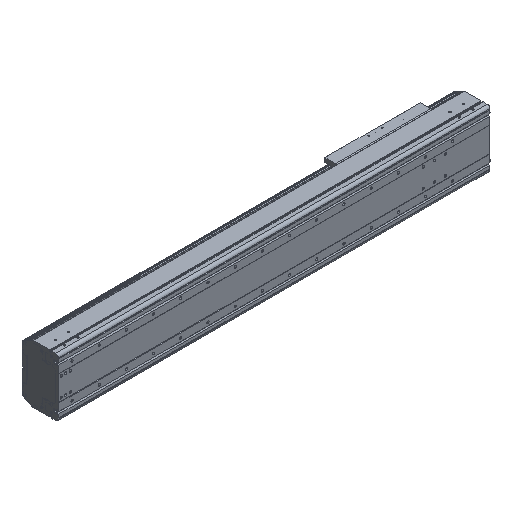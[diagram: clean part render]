
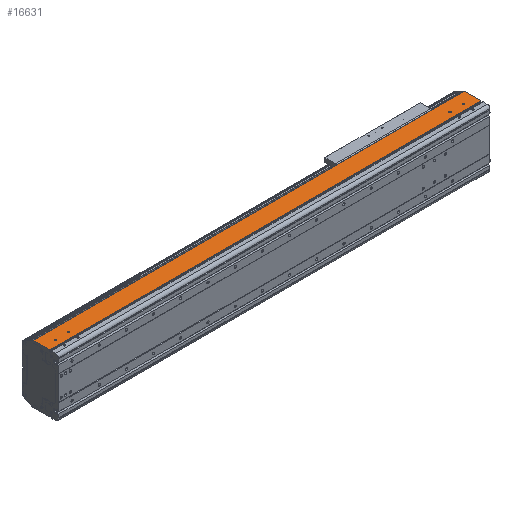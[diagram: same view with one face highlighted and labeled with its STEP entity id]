
A CAD part, isometric view. The second image highlights one B-rep face of the part: STEP entity #16631.
In plain terms, the highlighted planar face has unit normal (0, 0, 1).
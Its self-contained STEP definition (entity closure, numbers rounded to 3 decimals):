
#1203=DIRECTION('',(1.,0.,0.));
#1204=VECTOR('',#1203,2.);
#1205=CARTESIAN_POINT('',(0.,34.65,107.));
#1206=LINE('',#1205,#1204);
#1211=CARTESIAN_POINT('',(-42.,54.,107.));
#1212=DIRECTION('',(0.,0.,-1.));
#1213=DIRECTION('',(1.,0.,0.));
#1214=AXIS2_PLACEMENT_3D('',#1211,#1212,#1213);
#1216=CARTESIAN_POINT('',(-42.,54.,107.));
#1217=DIRECTION('',(0.,0.,-1.));
#1218=DIRECTION('',(-1.,0.,0.));
#1219=AXIS2_PLACEMENT_3D('',#1216,#1217,#1218);
#1221=CARTESIAN_POINT('',(-92.,54.,107.));
#1222=DIRECTION('',(0.,0.,-1.));
#1223=DIRECTION('',(1.,0.,0.));
#1224=AXIS2_PLACEMENT_3D('',#1221,#1222,#1223);
#1226=CARTESIAN_POINT('',(-92.,54.,107.));
#1227=DIRECTION('',(0.,0.,-1.));
#1228=DIRECTION('',(-1.,0.,0.));
#1229=AXIS2_PLACEMENT_3D('',#1226,#1227,#1228);
#1231=CARTESIAN_POINT('',(-1544.,54.,107.));
#1232=DIRECTION('',(0.,0.,-1.));
#1233=DIRECTION('',(1.,0.,0.));
#1234=AXIS2_PLACEMENT_3D('',#1231,#1232,#1233);
#1236=CARTESIAN_POINT('',(-1544.,54.,107.));
#1237=DIRECTION('',(0.,0.,-1.));
#1238=DIRECTION('',(-1.,0.,0.));
#1239=AXIS2_PLACEMENT_3D('',#1236,#1237,#1238);
#1241=CARTESIAN_POINT('',(-1494.,54.,107.));
#1242=DIRECTION('',(0.,0.,-1.));
#1243=DIRECTION('',(1.,0.,0.));
#1244=AXIS2_PLACEMENT_3D('',#1241,#1242,#1243);
#1246=CARTESIAN_POINT('',(-1494.,54.,107.));
#1247=DIRECTION('',(0.,0.,-1.));
#1248=DIRECTION('',(-1.,0.,0.));
#1249=AXIS2_PLACEMENT_3D('',#1246,#1247,#1248);
#1251=DIRECTION('',(0.,-1.,0.));
#1252=VECTOR('',#1251,2.55);
#1253=CARTESIAN_POINT('',(-1584.,34.65,107.));
#1254=LINE('',#1253,#1252);
#1255=DIRECTION('',(0.,-1.,0.));
#1256=VECTOR('',#1255,58.85);
#1257=CARTESIAN_POINT('',(-1586.,93.5,107.));
#1258=LINE('',#1257,#1256);
#1259=DIRECTION('',(0.,1.,0.));
#1260=VECTOR('',#1259,58.85);
#1261=CARTESIAN_POINT('',(2.,34.65,107.));
#1262=LINE('',#1261,#1260);
#1263=DIRECTION('',(0.,1.,0.));
#1264=VECTOR('',#1263,2.55);
#1265=CARTESIAN_POINT('',(0.,32.1,107.));
#1266=LINE('',#1265,#1264);
#1375=DIRECTION('',(1.,0.,0.));
#1376=VECTOR('',#1375,2.);
#1377=CARTESIAN_POINT('',(-1586.,34.65,107.));
#1378=LINE('',#1377,#1376);
#1387=DIRECTION('',(-1.,0.,0.));
#1388=VECTOR('',#1387,1588.);
#1389=CARTESIAN_POINT('',(2.,93.5,107.));
#1390=LINE('',#1389,#1388);
#10993=DIRECTION('',(1.,0.,0.));
#10994=VECTOR('',#10993,1584.);
#10995=CARTESIAN_POINT('',(-1584.,32.1,107.));
#10996=LINE('',#10995,#10994);
#12079=CARTESIAN_POINT('',(-1586.,34.65,107.));
#12080=VERTEX_POINT('',#12079);
#12081=CARTESIAN_POINT('',(-1586.,93.5,107.));
#12082=VERTEX_POINT('',#12081);
#12303=CARTESIAN_POINT('',(-1584.,32.1,107.));
#12304=VERTEX_POINT('',#12303);
#12375=CARTESIAN_POINT('',(0.,32.1,107.));
#12376=VERTEX_POINT('',#12375);
#12817=CARTESIAN_POINT('',(-39.5,54.,107.));
#12818=CARTESIAN_POINT('',(-44.5,54.,107.));
#12819=VERTEX_POINT('',#12817);
#12820=VERTEX_POINT('',#12818);
#12821=CARTESIAN_POINT('',(-89.5,54.,107.));
#12822=CARTESIAN_POINT('',(-94.5,54.,107.));
#12823=VERTEX_POINT('',#12821);
#12824=VERTEX_POINT('',#12822);
#12825=CARTESIAN_POINT('',(-1541.5,54.,107.));
#12826=CARTESIAN_POINT('',(-1546.5,54.,107.));
#12827=VERTEX_POINT('',#12825);
#12828=VERTEX_POINT('',#12826);
#12829=CARTESIAN_POINT('',(-1491.5,54.,107.));
#12830=CARTESIAN_POINT('',(-1496.5,54.,107.));
#12831=VERTEX_POINT('',#12829);
#12832=VERTEX_POINT('',#12830);
#13978=CARTESIAN_POINT('',(2.,34.65,107.));
#13979=VERTEX_POINT('',#13978);
#13980=CARTESIAN_POINT('',(2.,93.5,107.));
#13981=VERTEX_POINT('',#13980);
#14200=CARTESIAN_POINT('',(0.,34.65,107.));
#14201=VERTEX_POINT('',#14200);
#14512=CARTESIAN_POINT('',(-1584.,34.65,107.));
#14513=VERTEX_POINT('',#14512);
#16589=CARTESIAN_POINT('',(-792.,62.8,107.));
#16590=DIRECTION('',(0.,0.,1.));
#16591=DIRECTION('',(0.,-1.,0.));
#16592=AXIS2_PLACEMENT_3D('',#16589,#16590,#16591);
#16593=PLANE('',#16592);
#16594=ORIENTED_EDGE('',*,*,#15264,.F.);
#16596=ORIENTED_EDGE('',*,*,#16595,.F.);
#16597=ORIENTED_EDGE('',*,*,#15636,.F.);
#16599=ORIENTED_EDGE('',*,*,#16598,.F.);
#16600=ORIENTED_EDGE('',*,*,#16385,.F.);
#16601=ORIENTED_EDGE('',*,*,#16582,.F.);
#16602=ORIENTED_EDGE('',*,*,#15760,.F.);
#16604=ORIENTED_EDGE('',*,*,#16603,.F.);
#16605=EDGE_LOOP('',(#16594,#16596,#16597,#16599,#16600,#16601,#16602,#16604));
#16606=FACE_OUTER_BOUND('',#16605,.F.);
#16608=ORIENTED_EDGE('',*,*,#16607,.F.);
#16610=ORIENTED_EDGE('',*,*,#16609,.F.);
#16611=EDGE_LOOP('',(#16608,#16610));
#16612=FACE_BOUND('',#16611,.F.);
#16614=ORIENTED_EDGE('',*,*,#16613,.F.);
#16616=ORIENTED_EDGE('',*,*,#16615,.F.);
#16617=EDGE_LOOP('',(#16614,#16616));
#16618=FACE_BOUND('',#16617,.F.);
#16620=ORIENTED_EDGE('',*,*,#16619,.F.);
#16622=ORIENTED_EDGE('',*,*,#16621,.F.);
#16623=EDGE_LOOP('',(#16620,#16622));
#16624=FACE_BOUND('',#16623,.F.);
#16626=ORIENTED_EDGE('',*,*,#16625,.F.);
#16628=ORIENTED_EDGE('',*,*,#16627,.F.);
#16629=EDGE_LOOP('',(#16626,#16628));
#16630=FACE_BOUND('',#16629,.F.);
#16631=ADVANCED_FACE('',(#16606,#16612,#16618,#16624,#16630),#16593,.T.);
#1215=CIRCLE('',#1214,2.5);
#1220=CIRCLE('',#1219,2.5);
#1225=CIRCLE('',#1224,2.5);
#1230=CIRCLE('',#1229,2.5);
#1235=CIRCLE('',#1234,2.5);
#1240=CIRCLE('',#1239,2.5);
#1245=CIRCLE('',#1244,2.5);
#1250=CIRCLE('',#1249,2.5);
#15264=EDGE_CURVE('',#14513,#12304,#1254,.T.);
#15636=EDGE_CURVE('',#12082,#12080,#1258,.T.);
#15760=EDGE_CURVE('',#12376,#14201,#1266,.T.);
#16385=EDGE_CURVE('',#13979,#13981,#1262,.T.);
#16582=EDGE_CURVE('',#14201,#13979,#1206,.T.);
#16595=EDGE_CURVE('',#12080,#14513,#1378,.T.);
#16598=EDGE_CURVE('',#13981,#12082,#1390,.T.);
#16603=EDGE_CURVE('',#12304,#12376,#10996,.T.);
#16607=EDGE_CURVE('',#12823,#12824,#1225,.T.);
#16609=EDGE_CURVE('',#12824,#12823,#1230,.T.);
#16613=EDGE_CURVE('',#12827,#12828,#1235,.T.);
#16615=EDGE_CURVE('',#12828,#12827,#1240,.T.);
#16619=EDGE_CURVE('',#12831,#12832,#1245,.T.);
#16621=EDGE_CURVE('',#12832,#12831,#1250,.T.);
#16625=EDGE_CURVE('',#12819,#12820,#1215,.T.);
#16627=EDGE_CURVE('',#12820,#12819,#1220,.T.);
